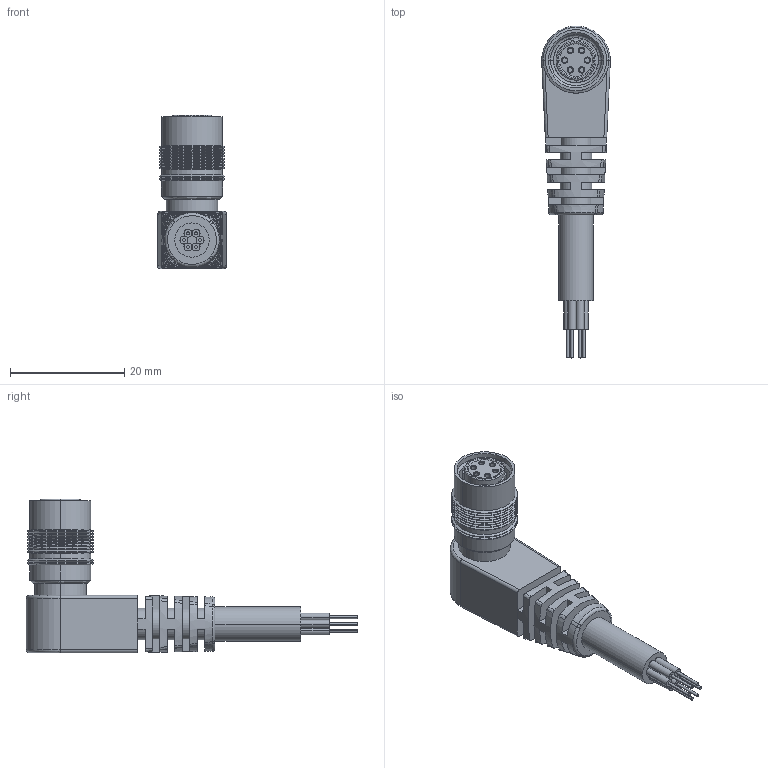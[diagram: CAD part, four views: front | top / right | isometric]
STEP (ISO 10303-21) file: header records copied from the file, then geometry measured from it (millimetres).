
FILE_DESCRIPTION (( 'STEP AP214' ), '1' );
FILE_NAME ('MVA-55.STEP', '2023-06-23T07:07:38', ( '' ), ( '' ), 'SwSTEP 2.0', 'SolidWorks 2021', '' );
FILE_SCHEMA (( 'AUTOMOTIVE_DESIGN' ));
Length unit declared in the file: millimetre
Products named in the file (6): MI_Cable_6; HR10A-7P-6S Contacts; HR10A-7P-6S Body For Web; MVA-55; HR10A-7P-6S73 For Web; HR10A-7P-6S Mold1
Assembly tree (5 placements, depth 3):
  MVA-55
    HR10A-7P-6S73 For Web
      HR10A-7P-6S Contacts
      HR10A-7P-6S Body For Web
    HR10A-7P-6S Mold1
    MI_Cable_6
Bounding box: 12 x 58 x 26.79 mm (x, y, z)
Volume: 4559.1 mm3; surface area: 4268.6 mm2
Topology: 16 solids, 16 shells, 364 faces, 846 edges, 532 vertices
Faces by surface type: plane 137, cylinder 121, cone 56, bspline 50
Entity records: 13815 total; most frequent: CARTESIAN_POINT 4342, ORIENTED_EDGE 1692, DIRECTION 1666, EDGE_CURVE 846, AXIS2_PLACEMENT_3D 649, VERTEX_POINT 532, EDGE_LOOP 384, VECTOR 368
